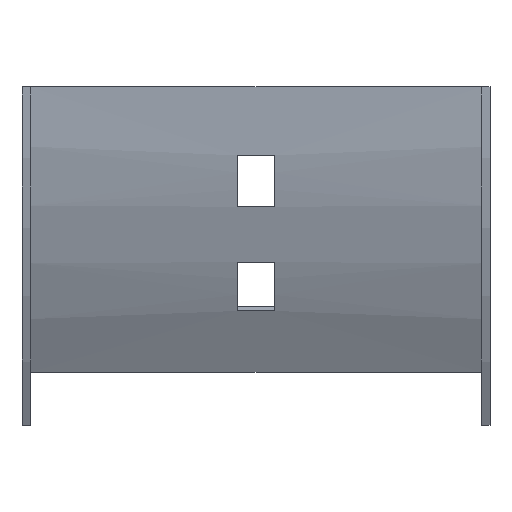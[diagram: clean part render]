
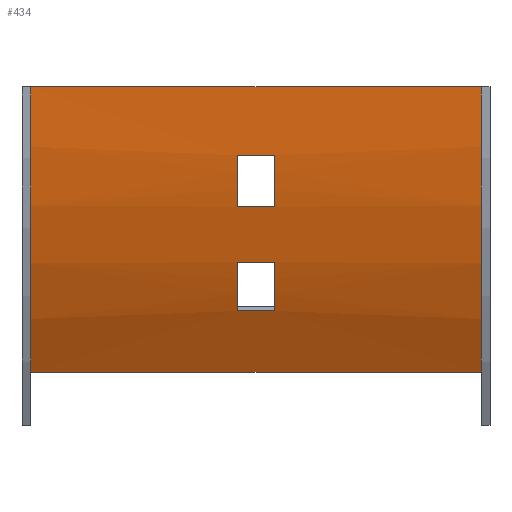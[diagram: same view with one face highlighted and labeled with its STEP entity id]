
A CAD part, front view. The second image highlights one B-rep face of the part: STEP entity #434.
In plain terms, the highlighted cylindrical face has radius 100 mm (diameter 200 mm), a partial arc.
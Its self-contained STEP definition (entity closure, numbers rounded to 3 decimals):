
#16 = EDGE_CURVE ( 'NONE', #512, #277, #48, .T. ) ;
#23 = CARTESIAN_POINT ( 'NONE',  ( -3.25, 98.5, 0. ) ) ;
#33 = LINE ( 'NONE', #266, #413 ) ;
#36 = FACE_BOUND ( 'NONE', #123, .T. ) ;
#39 = DIRECTION ( 'NONE',  ( 0., 0., -1. ) ) ;
#43 = CARTESIAN_POINT ( 'NONE',  ( 39.5, 98.5, 0. ) ) ;
#48 = CIRCLE ( 'NONE', #203, 100. ) ;
#55 = EDGE_CURVE ( 'NONE', #213, #512, #33, .T. ) ;
#56 = ORIENTED_EDGE ( 'NONE', *, *, #221, .F. ) ;
#59 = CARTESIAN_POINT ( 'NONE',  ( 41., 3.329, -30.699 ) ) ;
#64 = CARTESIAN_POINT ( 'NONE',  ( -39.5, -1.5, 0. ) ) ;
#81 = DIRECTION ( 'NONE',  ( 1., 0., 0. ) ) ;
#84 = AXIS2_PLACEMENT_3D ( 'NONE', #251, #81, #129 ) ;
#86 = CARTESIAN_POINT ( 'NONE',  ( 39.5, 11.897, -50. ) ) ;
#94 = ORIENTED_EDGE ( 'NONE', *, *, #520, .F. ) ;
#96 = AXIS2_PLACEMENT_3D ( 'NONE', #43, #141, #410 ) ;
#119 = LINE ( 'NONE', #86, #308 ) ;
#123 = EDGE_LOOP ( 'NONE', ( #173, #519, #515, #318 ) ) ;
#124 = DIRECTION ( 'NONE',  ( 1., 0., 0. ) ) ;
#129 = DIRECTION ( 'NONE',  ( 0., 0., 1. ) ) ;
#133 = ORIENTED_EDGE ( 'NONE', *, *, #390, .F. ) ;
#135 = VERTEX_POINT ( 'NONE', #418 ) ;
#138 = CARTESIAN_POINT ( 'NONE',  ( 39.5, 11.897, -50. ) ) ;
#141 = DIRECTION ( 'NONE',  ( -1., 0., 0. ) ) ;
#147 = DIRECTION ( 'NONE',  ( 0., 0., 1. ) ) ;
#155 = CIRCLE ( 'NONE', #493, 100. ) ;
#158 = CARTESIAN_POINT ( 'NONE',  ( 3.25, -0.777, -12. ) ) ;
#159 = DIRECTION ( 'NONE',  ( 0., 0., -1. ) ) ;
#160 = EDGE_CURVE ( 'NONE', #135, #558, #470, .T. ) ;
#167 = FACE_OUTER_BOUND ( 'NONE', #186, .T. ) ;
#171 = VERTEX_POINT ( 'NONE', #514 ) ;
#173 = ORIENTED_EDGE ( 'NONE', *, *, #305, .T. ) ;
#181 = VERTEX_POINT ( 'NONE', #138 ) ;
#186 = EDGE_LOOP ( 'NONE', ( #94, #133, #351, #461 ) ) ;
#196 = DIRECTION ( 'NONE',  ( -1., 0., 0. ) ) ;
#203 = AXIS2_PLACEMENT_3D ( 'NONE', #454, #604, #39 ) ;
#213 = VERTEX_POINT ( 'NONE', #247 ) ;
#220 = CARTESIAN_POINT ( 'NONE',  ( 3.25, 0.73, -21. ) ) ;
#221 = EDGE_CURVE ( 'NONE', #277, #397, #289, .T. ) ;
#226 = ORIENTED_EDGE ( 'NONE', *, *, #16, .F. ) ;
#227 = CARTESIAN_POINT ( 'NONE',  ( 3.25, 3.329, -30.699 ) ) ;
#232 = CARTESIAN_POINT ( 'NONE',  ( 3.25, 98.5, 0. ) ) ;
#236 = AXIS2_PLACEMENT_3D ( 'NONE', #232, #272, #147 ) ;
#247 = CARTESIAN_POINT ( 'NONE',  ( -3.25, 0.73, -21. ) ) ;
#251 = CARTESIAN_POINT ( 'NONE',  ( -3.25, 98.5, 0. ) ) ;
#256 = VERTEX_POINT ( 'NONE', #64 ) ;
#258 = CARTESIAN_POINT ( 'NONE',  ( 3.25, 6.523, -39.246 ) ) ;
#263 = LINE ( 'NONE', #352, #456 ) ;
#264 = ORIENTED_EDGE ( 'NONE', *, *, #55, .F. ) ;
#265 = EDGE_CURVE ( 'NONE', #171, #135, #403, .T. ) ;
#266 = CARTESIAN_POINT ( 'NONE',  ( 41., 0.73, -21. ) ) ;
#272 = DIRECTION ( 'NONE',  ( 1., 0., 0. ) ) ;
#277 = VERTEX_POINT ( 'NONE', #158 ) ;
#289 = LINE ( 'NONE', #580, #603 ) ;
#293 = CARTESIAN_POINT ( 'NONE',  ( -3.25, -0.777, -12. ) ) ;
#305 = EDGE_CURVE ( 'NONE', #363, #171, #386, .T. ) ;
#308 = VECTOR ( 'NONE', #407, 1000. ) ;
#312 = DIRECTION ( 'NONE',  ( -1., 0., 0. ) ) ;
#318 = ORIENTED_EDGE ( 'NONE', *, *, #442, .T. ) ;
#349 = CYLINDRICAL_SURFACE ( 'NONE', #592, 100. ) ;
#351 = ORIENTED_EDGE ( 'NONE', *, *, #536, .T. ) ;
#352 = CARTESIAN_POINT ( 'NONE',  ( 39.5, -1.5, 0. ) ) ;
#358 = EDGE_LOOP ( 'NONE', ( #598, #56, #226, #264 ) ) ;
#363 = VERTEX_POINT ( 'NONE', #258 ) ;
#371 = VECTOR ( 'NONE', #425, 1000. ) ;
#372 = AXIS2_PLACEMENT_3D ( 'NONE', #23, #582, #159 ) ;
#375 = CARTESIAN_POINT ( 'NONE',  ( -39.5, 98.5, 0. ) ) ;
#378 = EDGE_CURVE ( 'NONE', #562, #256, #263, .T. ) ;
#386 = LINE ( 'NONE', #581, #540 ) ;
#390 = EDGE_CURVE ( 'NONE', #181, #587, #119, .T. ) ;
#393 = EDGE_CURVE ( 'NONE', #397, #213, #584, .T. ) ;
#397 = VERTEX_POINT ( 'NONE', #293 ) ;
#403 = CIRCLE ( 'NONE', #372, 100. ) ;
#407 = DIRECTION ( 'NONE',  ( -1., 0., 0. ) ) ;
#410 = DIRECTION ( 'NONE',  ( 0., 0., 1. ) ) ;
#413 = VECTOR ( 'NONE', #124, 1000. ) ;
#415 = CARTESIAN_POINT ( 'NONE',  ( 39.5, -1.5, 0. ) ) ;
#418 = CARTESIAN_POINT ( 'NONE',  ( -3.25, 3.329, -30.699 ) ) ;
#425 = DIRECTION ( 'NONE',  ( 1., 0., 0. ) ) ;
#427 = CIRCLE ( 'NONE', #96, 100. ) ;
#433 = CARTESIAN_POINT ( 'NONE',  ( -39.5, 11.897, -50. ) ) ;
#434 = ADVANCED_FACE ( 'NONE', ( #589, #167, #36 ), #349, .T. ) ;
#442 = EDGE_CURVE ( 'NONE', #558, #363, #502, .T. ) ;
#443 = DIRECTION ( 'NONE',  ( -1., 0., 0. ) ) ;
#454 = CARTESIAN_POINT ( 'NONE',  ( 3.25, 98.5, 0. ) ) ;
#456 = VECTOR ( 'NONE', #504, 1000. ) ;
#461 = ORIENTED_EDGE ( 'NONE', *, *, #378, .T. ) ;
#466 = DIRECTION ( 'NONE',  ( 0., 0., 1. ) ) ;
#469 = DIRECTION ( 'NONE',  ( 0., 0., 1. ) ) ;
#470 = LINE ( 'NONE', #59, #371 ) ;
#493 = AXIS2_PLACEMENT_3D ( 'NONE', #375, #569, #466 ) ;
#502 = CIRCLE ( 'NONE', #236, 100. ) ;
#504 = DIRECTION ( 'NONE',  ( -1., 0., 0. ) ) ;
#512 = VERTEX_POINT ( 'NONE', #220 ) ;
#514 = CARTESIAN_POINT ( 'NONE',  ( -3.25, 6.523, -39.246 ) ) ;
#515 = ORIENTED_EDGE ( 'NONE', *, *, #160, .T. ) ;
#519 = ORIENTED_EDGE ( 'NONE', *, *, #265, .T. ) ;
#520 = EDGE_CURVE ( 'NONE', #587, #256, #155, .T. ) ;
#536 = EDGE_CURVE ( 'NONE', #181, #562, #427, .T. ) ;
#540 = VECTOR ( 'NONE', #196, 1000. ) ;
#558 = VERTEX_POINT ( 'NONE', #227 ) ;
#562 = VERTEX_POINT ( 'NONE', #415 ) ;
#569 = DIRECTION ( 'NONE',  ( -1., 0., 0. ) ) ;
#580 = CARTESIAN_POINT ( 'NONE',  ( 41., -0.777, -12. ) ) ;
#581 = CARTESIAN_POINT ( 'NONE',  ( 41., 6.523, -39.246 ) ) ;
#582 = DIRECTION ( 'NONE',  ( -1., 0., 0. ) ) ;
#584 = CIRCLE ( 'NONE', #84, 100. ) ;
#587 = VERTEX_POINT ( 'NONE', #433 ) ;
#589 = FACE_BOUND ( 'NONE', #358, .T. ) ;
#592 = AXIS2_PLACEMENT_3D ( 'NONE', #606, #312, #469 ) ;
#598 = ORIENTED_EDGE ( 'NONE', *, *, #393, .F. ) ;
#603 = VECTOR ( 'NONE', #443, 1000. ) ;
#604 = DIRECTION ( 'NONE',  ( -1., 0., 0. ) ) ;
#606 = CARTESIAN_POINT ( 'NONE',  ( 41., 98.5, 0. ) ) ;
